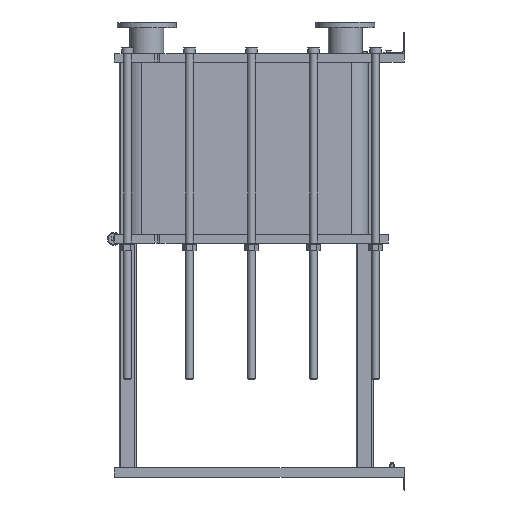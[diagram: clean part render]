
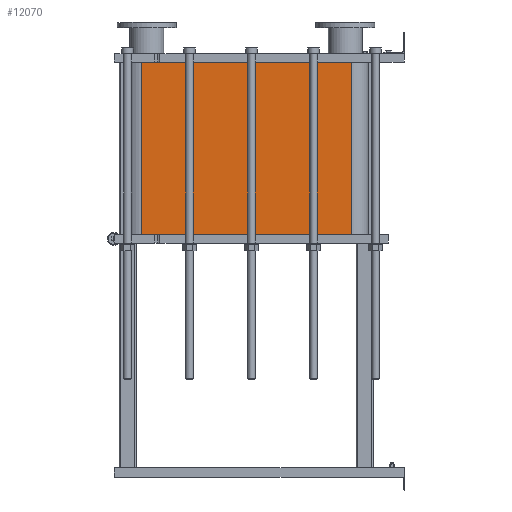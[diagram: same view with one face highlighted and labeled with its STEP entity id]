
A CAD part, left-side view. The second image highlights one B-rep face of the part: STEP entity #12070.
In plain terms, the highlighted planar face has unit normal (-1, 0, 0).
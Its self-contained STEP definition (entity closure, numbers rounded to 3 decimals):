
#1064=LINE('',#21140,#2164);
#1065=LINE('',#21144,#2165);
#1066=LINE('',#21146,#2166);
#1067=LINE('',#21147,#2167);
#2164=VECTOR('',#15790,10.);
#2165=VECTOR('',#15795,10.);
#2166=VECTOR('',#15796,10.);
#2167=VECTOR('',#15797,10.);
#3304=FACE_OUTER_BOUND('',#4091,.T.);
#4091=EDGE_LOOP('',(#9793,#9794,#9795,#9796));
#5677=VERTEX_POINT('',#21137);
#5678=VERTEX_POINT('',#21139);
#5679=VERTEX_POINT('',#21143);
#5680=VERTEX_POINT('',#21145);
#7118=EDGE_CURVE('',#5678,#5677,#1064,.T.);
#7120=EDGE_CURVE('',#5677,#5679,#1065,.T.);
#7121=EDGE_CURVE('',#5680,#5679,#1066,.T.);
#7122=EDGE_CURVE('',#5680,#5678,#1067,.T.);
#9793=ORIENTED_EDGE('',*,*,#7120,.T.);
#9794=ORIENTED_EDGE('',*,*,#7121,.F.);
#9795=ORIENTED_EDGE('',*,*,#7122,.T.);
#9796=ORIENTED_EDGE('',*,*,#7118,.T.);
#11441=PLANE('',#13191);
#12070=ADVANCED_FACE('',(#3304),#11441,.T.);
#13191=AXIS2_PLACEMENT_3D('',#21142,#15793,#15794);
#15790=DIRECTION('',(0.,0.,-1.));
#15793=DIRECTION('center_axis',(-1.,0.,0.));
#15794=DIRECTION('ref_axis',(0.,1.,0.));
#15795=DIRECTION('',(0.,-1.,0.));
#15796=DIRECTION('',(0.,0.,-1.));
#15797=DIRECTION('',(0.,1.,0.));
#21137=CARTESIAN_POINT('',(-248.152,1243.818,-817.65));
#21139=CARTESIAN_POINT('',(-248.152,1243.818,0.));
#21140=CARTESIAN_POINT('',(-248.152,1243.818,0.));
#21142=CARTESIAN_POINT('Origin',(-248.152,251.818,0.));
#21143=CARTESIAN_POINT('',(-248.152,251.818,-817.65));
#21144=CARTESIAN_POINT('',(-248.152,499.818,-817.65));
#21145=CARTESIAN_POINT('',(-248.152,251.818,0.));
#21146=CARTESIAN_POINT('',(-248.152,251.818,0.));
#21147=CARTESIAN_POINT('',(-248.152,251.818,0.));
